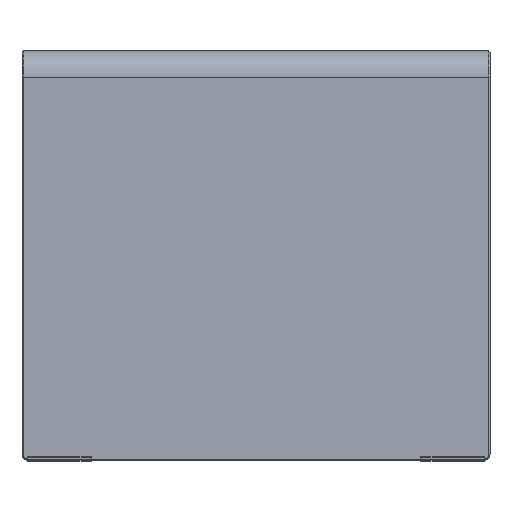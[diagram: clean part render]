
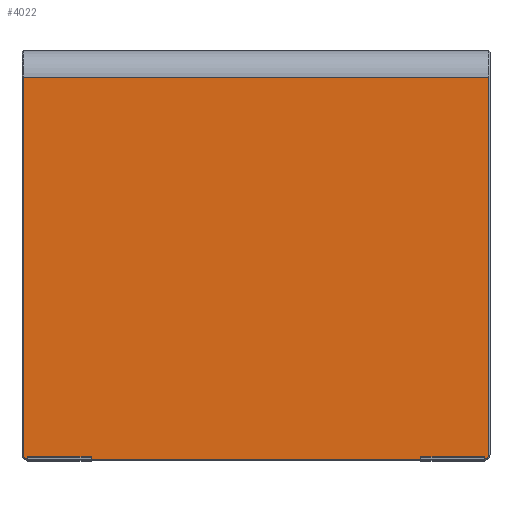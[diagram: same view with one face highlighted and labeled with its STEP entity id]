
A CAD part, left-side view. The second image highlights one B-rep face of the part: STEP entity #4022.
In plain terms, the highlighted planar face has unit normal (-1, 0, 0).
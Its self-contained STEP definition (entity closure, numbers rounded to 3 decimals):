
#3512=CARTESIAN_POINT('',(-237.5,-219.,-15.));
#3513=VERTEX_POINT('',#3512);
#3536=CARTESIAN_POINT('',(-237.5,-219.,-370.));
#3537=VERTEX_POINT('',#3536);
#3553=CARTESIAN_POINT('',(-237.5,-219.,-15.));
#3554=DIRECTION('',(0.0,0.0,-1.0));
#3555=VECTOR('',#3554,355.0);
#3556=LINE('',#3553,#3555);
#3557=EDGE_CURVE('',#3513,#3537,#3556,.T.);
#3567=CARTESIAN_POINT('',(-237.5,-215.,-374.));
#3568=VERTEX_POINT('',#3567);
#3583=CARTESIAN_POINT('',(-237.5,-215.,-370.));
#3584=DIRECTION('',(1.0,0.,0.));
#3585=DIRECTION('',(0.,-0.707,-0.707));
#3586=AXIS2_PLACEMENT_3D('',#3583,#3584,#3585);
#3587=CIRCLE('',#3586,4.);
#3588=EDGE_CURVE('',#3537,#3568,#3587,.T.);
#3598=CARTESIAN_POINT('',(-237.5,215.0,-374.0));
#3599=VERTEX_POINT('',#3598);
#3615=CARTESIAN_POINT('',(-237.5,-215.,-374.));
#3616=DIRECTION('',(0.0,1.0,0.0));
#3617=VECTOR('',#3616,430.);
#3618=LINE('',#3615,#3617);
#3619=EDGE_CURVE('',#3568,#3599,#3618,.T.);
#3629=CARTESIAN_POINT('',(-237.5,219.0,-370.0));
#3630=VERTEX_POINT('',#3629);
#3647=CARTESIAN_POINT('',(-237.5,215.0,-370.0));
#3648=DIRECTION('',(1.0,0.,0.));
#3649=DIRECTION('',(0.,0.707,-0.707));
#3650=AXIS2_PLACEMENT_3D('',#3647,#3648,#3649);
#3651=CIRCLE('',#3650,4.);
#3652=EDGE_CURVE('',#3599,#3630,#3651,.T.);
#3662=CARTESIAN_POINT('',(-237.5,219.0,-15.));
#3663=VERTEX_POINT('',#3662);
#3679=CARTESIAN_POINT('',(-237.5,219.,-370.));
#3680=DIRECTION('',(0.0,0.0,1.0));
#3681=VECTOR('',#3680,355.);
#3682=LINE('',#3679,#3681);
#3683=EDGE_CURVE('',#3630,#3663,#3682,.T.);
#3917=CARTESIAN_POINT('',(-237.5,-219.,-15.));
#3918=DIRECTION('',(0.0,1.0,0.0));
#3919=VECTOR('',#3918,438.);
#3920=LINE('',#3917,#3919);
#3921=EDGE_CURVE('',#3513,#3663,#3920,.T.);
#4009=CARTESIAN_POINT('',(-237.5,0.,-179.763));
#4010=DIRECTION('',(-1.0,0.0,0.0));
#4011=DIRECTION('',(0.0,0.0,1.0));
#4012=AXIS2_PLACEMENT_3D('',#4009,#4010,#4011);
#4013=PLANE('',#4012);
#4014=ORIENTED_EDGE('',*,*,#3557,.F.);
#4015=ORIENTED_EDGE('',*,*,#3921,.T.);
#4016=ORIENTED_EDGE('',*,*,#3683,.F.);
#4017=ORIENTED_EDGE('',*,*,#3652,.F.);
#4018=ORIENTED_EDGE('',*,*,#3619,.F.);
#4019=ORIENTED_EDGE('',*,*,#3588,.F.);
#4020=EDGE_LOOP('',(#4014,#4015,#4016,#4017,#4018,#4019));
#4021=FACE_OUTER_BOUND('',#4020,.T.);
#4022=ADVANCED_FACE('',(#4021),#4013,.T.);
